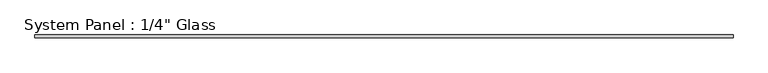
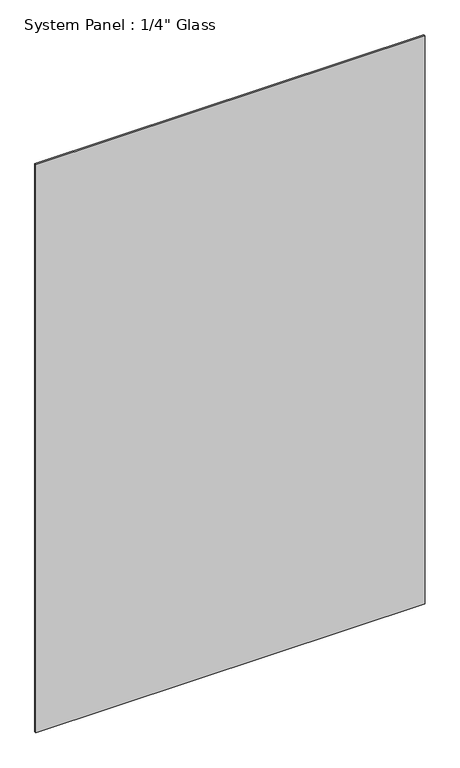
"""IFC4 building model written with IfcOpenShell, lengths in millimetres: plate geometry."""

from ifc_helpers import new_model, si_unit, origin, origin_with_axes, place, context, project, spatial, polyline, outline, extrude, source, transform, mapped, element, save


def plate_3fb62afd(model_context):
    return source(origin(), model_context, "Body", "SweptSolid", [
        extrude(outline(polyline([(806.6267272, -3.175), (-806.6267272, -3.175), (-806.6267272, 3.175), (806.6267272, 3.175), (806.6267272, -3.175)])), origin_with_axes(), (0.0, 0.0, 1.0), 2489.2),
    ])


if __name__ == "__main__":
    model = new_model("IFC4")
    model_context = context("Model", 3, world=origin())
    ifc_project = project(units=[si_unit("LENGTHUNIT", "METRE", prefix="MILLI")], contexts=[model_context])
    site = spatial("IfcSite", under=ifc_project)
    building = spatial("IfcBuilding", under=site)
    placement = place(None, origin())
    plate_shape = plate_3fb62afd(model_context)
    element("IfcPlate", 1, ObjectType="System Panel : 1/4\" Glass", at=placement, inside=building, context=model_context, shape_type="MappedRepresentation", body=[
        mapped(plate_shape, transform((0.0, 0.0, 0.0), x_axis=(1.0, 0.0, 0.0), y_axis=(0.0, 1.0, 0.0), z_axis=(0.0, 0.0, 1.0))),
    ])
    save(model, "model.ifc")
